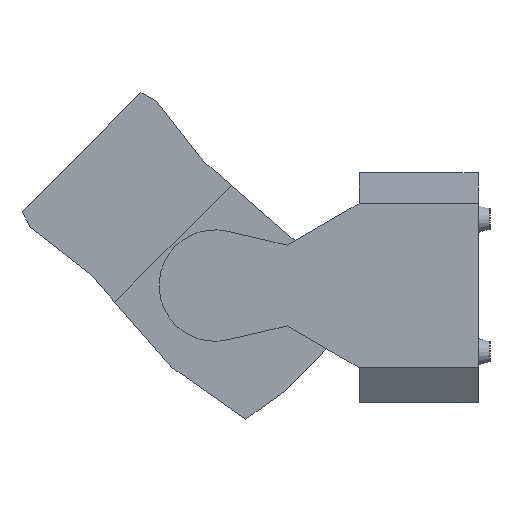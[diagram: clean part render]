
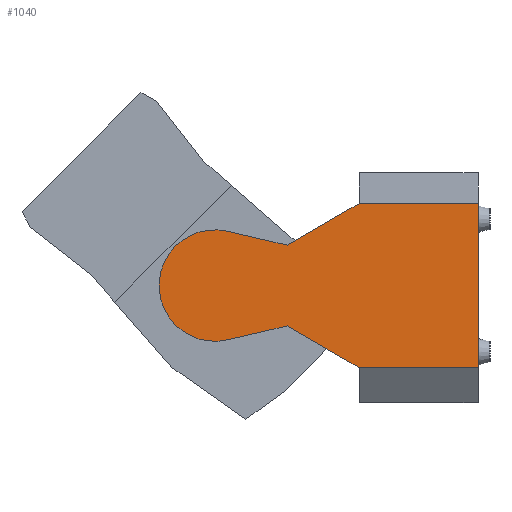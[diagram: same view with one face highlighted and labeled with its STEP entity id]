
A CAD part, left-side view. The second image highlights one B-rep face of the part: STEP entity #1040.
In plain terms, the highlighted planar face has unit normal (-1, 0, 0).
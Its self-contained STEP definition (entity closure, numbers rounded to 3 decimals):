
#58=PLANE('',#1188);
#114=FACE_OUTER_BOUND('',#178,.T.);
#178=EDGE_LOOP('',(#863,#864,#865,#866,#867,#868,#869,#870));
#247=LINE('',#1630,#373);
#273=LINE('',#1683,#399);
#278=LINE('',#1693,#404);
#279=LINE('',#1695,#405);
#280=LINE('',#1697,#406);
#281=LINE('',#1701,#407);
#282=LINE('',#1702,#408);
#373=VECTOR('',#1329,10.);
#399=VECTOR('',#1381,10.);
#404=VECTOR('',#1388,10.);
#405=VECTOR('',#1389,10.);
#406=VECTOR('',#1390,10.);
#407=VECTOR('',#1393,10.);
#408=VECTOR('',#1394,10.);
#474=CIRCLE('',#1189,32.8);
#521=VERTEX_POINT('',#1627);
#522=VERTEX_POINT('',#1629);
#536=VERTEX_POINT('',#1681);
#540=VERTEX_POINT('',#1692);
#541=VERTEX_POINT('',#1694);
#542=VERTEX_POINT('',#1696);
#543=VERTEX_POINT('',#1698);
#544=VERTEX_POINT('',#1700);
#627=EDGE_CURVE('',#521,#522,#247,.T.);
#654=EDGE_CURVE('',#521,#536,#273,.T.);
#659=EDGE_CURVE('',#536,#540,#278,.T.);
#660=EDGE_CURVE('',#540,#541,#279,.T.);
#661=EDGE_CURVE('',#541,#542,#280,.T.);
#662=EDGE_CURVE('',#542,#543,#474,.T.);
#663=EDGE_CURVE('',#543,#544,#281,.T.);
#664=EDGE_CURVE('',#544,#522,#282,.T.);
#863=ORIENTED_EDGE('',*,*,#627,.F.);
#864=ORIENTED_EDGE('',*,*,#654,.T.);
#865=ORIENTED_EDGE('',*,*,#659,.T.);
#866=ORIENTED_EDGE('',*,*,#660,.T.);
#867=ORIENTED_EDGE('',*,*,#661,.T.);
#868=ORIENTED_EDGE('',*,*,#662,.T.);
#869=ORIENTED_EDGE('',*,*,#663,.T.);
#870=ORIENTED_EDGE('',*,*,#664,.T.);
#1040=ADVANCED_FACE('',(#114),#58,.T.);
#1188=AXIS2_PLACEMENT_3D('',#1691,#1386,#1387);
#1189=AXIS2_PLACEMENT_3D('',#1699,#1391,#1392);
#1329=DIRECTION('',(0.,1.,0.));
#1381=DIRECTION('',(0.,0.,1.));
#1386=DIRECTION('center_axis',(-1.,0.,0.));
#1387=DIRECTION('ref_axis',(0.,0.,1.));
#1388=DIRECTION('',(0.,1.,0.));
#1389=DIRECTION('',(0.,0.866,-0.501));
#1390=DIRECTION('',(0.,0.974,0.226));
#1391=DIRECTION('center_axis',(-1.,0.,0.));
#1392=DIRECTION('ref_axis',(0.,-0.226,-0.974));
#1393=DIRECTION('',(0.,-0.974,0.226));
#1394=DIRECTION('',(0.,-0.866,-0.501));
#1627=CARTESIAN_POINT('',(-500.,0.,-48.3));
#1629=CARTESIAN_POINT('',(-500.,70.07,-48.3));
#1630=CARTESIAN_POINT('',(-500.,0.,-48.3));
#1681=CARTESIAN_POINT('',(-500.,0.,48.3));
#1683=CARTESIAN_POINT('',(-500.,0.,-48.3));
#1691=CARTESIAN_POINT('Origin',(-500.,0.,-48.3));
#1692=CARTESIAN_POINT('',(-500.,70.07,48.3));
#1693=CARTESIAN_POINT('',(-500.,0.,48.3));
#1694=CARTESIAN_POINT('',(-500.,112.432,23.802));
#1695=CARTESIAN_POINT('',(-500.,64.766,51.367));
#1696=CARTESIAN_POINT('',(-500.,147.593,31.953));
#1697=CARTESIAN_POINT('',(-500.,51.096,9.585));
#1698=CARTESIAN_POINT('',(-500.,147.593,-31.953));
#1699=CARTESIAN_POINT('Origin',(-500.,155.,0.));
#1700=CARTESIAN_POINT('',(-500.,112.432,-23.802));
#1701=CARTESIAN_POINT('',(-500.,79.358,-16.136));
#1702=CARTESIAN_POINT('',(-500.,64.96,-51.255));
